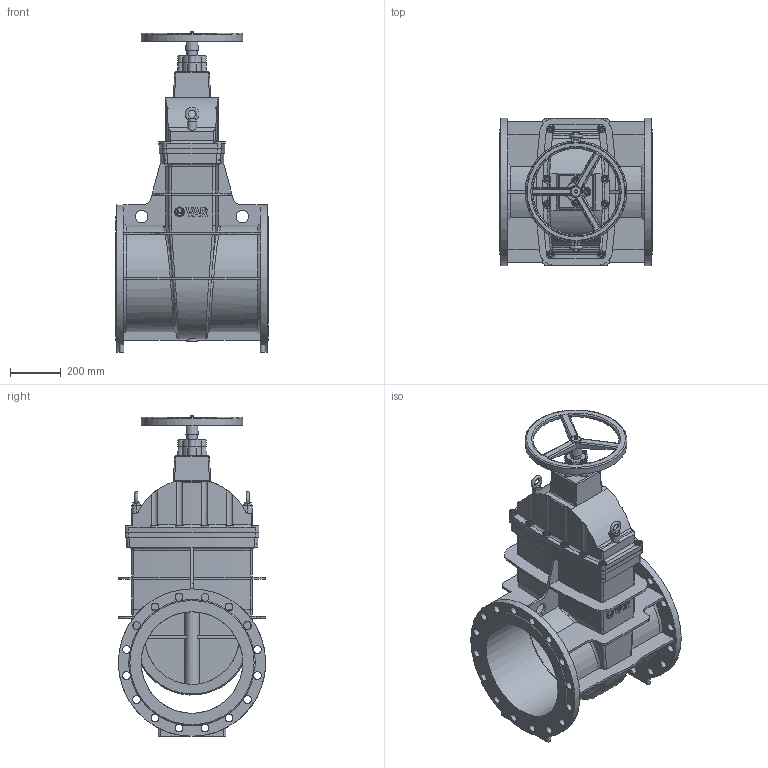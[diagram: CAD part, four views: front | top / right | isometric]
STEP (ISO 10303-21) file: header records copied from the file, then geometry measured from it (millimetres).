
FILE_DESCRIPTION(('STEP AP242'), '1');
FILE_NAME('青溻桄赅', '', ('UNSPECIFIED'), ('UNSPECIFIED'), 'C3D Converter', 'C3D Toolkit', '');
FILE_SCHEMA(('AP242_MANAGED_MODEL_BASED_3D_ENGINEERING_MIM_LF { 1 0 10303 442 1 1 4 }'));
Length unit declared in the file: millimetre
Assembly tree (27 placements, depth 2):
  (unnamed)
    (unnamed)
    (unnamed)
    (unnamed)
    (unnamed)
    (unnamed)  x2
    (unnamed)
    (unnamed)
    (unnamed)  x12
    (unnamed)  x4
    (unnamed)
    (unnamed)  x2
Bounding box: 600 x 580 x 1261.6 mm (x, y, z)
Volume: 39822381 mm3; surface area: 6079813 mm2
Topology: 30 solids, 30 shells, 1410 faces, 3588 edges, 2268 vertices
Faces by surface type: plane 653, cylinder 339, extrusion 135, cone 130, bspline 105, torus 48
Full cylindrical faces by diameter (mm): 4.917 x1, 6 x3, 12 x20, 14 x60, 21 x32, 31 x32, 38.88 x1, 40 x8, 50 x2, 58.667 x5, 340 x1, 350 x1, 372 x2, 390 x1, 400 x5, 433.6 x4, 456 x1, 580 x2
Entity records: 69394 total; most frequent: CARTESIAN_POINT 41112, ORIENTED_EDGE 5304, DIRECTION 4502, EDGE_CURVE 2652, VERTEX_POINT 1816, AXIS2_PLACEMENT_3D 1653, EDGE_LOOP 1440, VECTOR 1196
